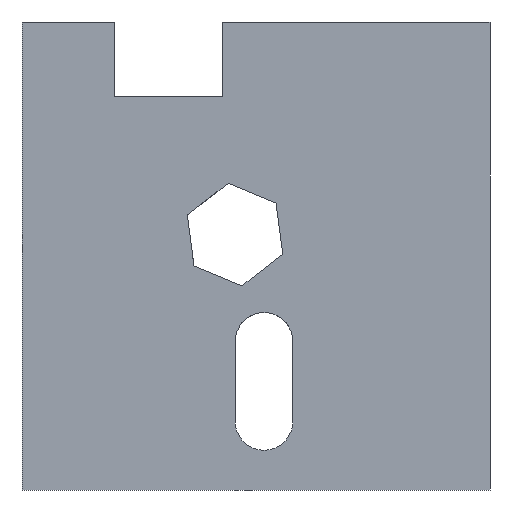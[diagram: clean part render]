
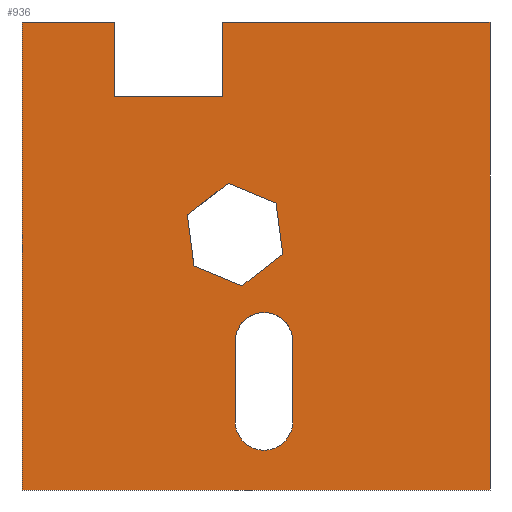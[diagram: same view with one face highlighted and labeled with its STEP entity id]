
A CAD part, front view. The second image highlights one B-rep face of the part: STEP entity #936.
In plain terms, the highlighted planar face has unit normal (0, -1, 0).
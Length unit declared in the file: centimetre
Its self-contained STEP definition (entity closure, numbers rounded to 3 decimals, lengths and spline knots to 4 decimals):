
#5 = VECTOR ( 'NONE', #1005, 100. ) ;
#16 = DIRECTION ( 'NONE',  ( 0.793, 0., 0.61 ) ) ;
#25 = FACE_OUTER_BOUND ( 'NONE', #751, .T. ) ;
#46 = VERTEX_POINT ( 'NONE', #938 ) ;
#49 = CIRCLE ( 'NONE', #1141, 61.485 ) ;
#51 = AXIS2_PLACEMENT_3D ( 'NONE', #134, #815, #830 ) ;
#72 = CARTESIAN_POINT ( 'NONE',  ( 455.6065, 0., 317.7559 ) ) ;
#73 = CARTESIAN_POINT ( 'NONE',  ( 455.6065, 0., 146.3168 ) ) ;
#91 = LINE ( 'NONE', #781, #5 ) ;
#108 = ORIENTED_EDGE ( 'NONE', *, *, #205, .F. ) ;
#115 = VERTEX_POINT ( 'NONE', #988 ) ;
#125 = ORIENTED_EDGE ( 'NONE', *, *, #1224, .T. ) ;
#127 = CARTESIAN_POINT ( 'NONE',  ( 353.0919, 0., 588.0164 ) ) ;
#130 = VECTOR ( 'NONE', #1232, 100. ) ;
#131 = VERTEX_POINT ( 'NONE', #677 ) ;
#134 = CARTESIAN_POINT ( 'NONE',  ( 517.0914, 0., 317.7559 ) ) ;
#135 = CARTESIAN_POINT ( 'NONE',  ( 429.1413, 0., 839.8143 ) ) ;
#148 = CARTESIAN_POINT ( 'NONE',  ( 0., 0., 1000. ) ) ;
#157 = LINE ( 'NONE', #148, #346 ) ;
#169 = CARTESIAN_POINT ( 'NONE',  ( 542.8206, 0., 613.2381 ) ) ;
#179 = CARTESIAN_POINT ( 'NONE',  ( 0., 0., 0. ) ) ;
#181 = CIRCLE ( 'NONE', #51, 61.485 ) ;
#182 = VERTEX_POINT ( 'NONE', #394 ) ;
#186 = DIRECTION ( 'NONE',  ( -0.924, 0., 0.382 ) ) ;
#188 = VERTEX_POINT ( 'NONE', #951 ) ;
#191 = LINE ( 'NONE', #285, #955 ) ;
#198 = ORIENTED_EDGE ( 'NONE', *, *, #864, .T. ) ;
#205 = EDGE_CURVE ( 'NONE', #958, #1105, #191, .T. ) ;
#207 = VECTOR ( 'NONE', #16, 100. ) ;
#221 = ORIENTED_EDGE ( 'NONE', *, *, #447, .T. ) ;
#227 = VERTEX_POINT ( 'NONE', #763 ) ;
#238 = LINE ( 'NONE', #900, #207 ) ;
#244 = AXIS2_PLACEMENT_3D ( 'NONE', #713, #1112, #572 ) ;
#246 = VECTOR ( 'NONE', #1081, 100. ) ;
#248 = LINE ( 'NONE', #428, #347 ) ;
#249 = DIRECTION ( 'NONE',  ( 1., 0., 0. ) ) ;
#252 = EDGE_LOOP ( 'NONE', ( #724, #672, #1009, #125, #1113 ) ) ;
#254 = CARTESIAN_POINT ( 'NONE',  ( 197.1459, 0., 1000. ) ) ;
#260 = EDGE_CURVE ( 'NONE', #131, #424, #379, .T. ) ;
#273 = DIRECTION ( 'NONE',  ( 0., 0., -1. ) ) ;
#274 = EDGE_CURVE ( 'NONE', #641, #131, #367, .T. ) ;
#278 = EDGE_CURVE ( 'NONE', #803, #182, #91, .T. ) ;
#279 = CARTESIAN_POINT ( 'NONE',  ( 578.5764, 0., 317.7559 ) ) ;
#285 = CARTESIAN_POINT ( 'NONE',  ( 0., 0., 1000. ) ) ;
#336 = CARTESIAN_POINT ( 'NONE',  ( 367.6537, 0., 478.4765 ) ) ;
#346 = VECTOR ( 'NONE', #1148, 100. ) ;
#347 = VECTOR ( 'NONE', #1024, 100. ) ;
#360 = ORIENTED_EDGE ( 'NONE', *, *, #841, .F. ) ;
#367 = LINE ( 'NONE', #279, #566 ) ;
#370 = LINE ( 'NONE', #73, #957 ) ;
#376 = DIRECTION ( 'NONE',  ( 0., 0., 1. ) ) ;
#377 = CARTESIAN_POINT ( 'NONE',  ( 557.3824, 0., 503.6982 ) ) ;
#379 = CIRCLE ( 'NONE', #1139, 61.485 ) ;
#394 = CARTESIAN_POINT ( 'NONE',  ( 557.3824, 0., 503.6982 ) ) ;
#409 = CARTESIAN_POINT ( 'NONE',  ( 1000., 0., 1000. ) ) ;
#424 = VERTEX_POINT ( 'NONE', #1002 ) ;
#427 = VERTEX_POINT ( 'NONE', #907 ) ;
#428 = CARTESIAN_POINT ( 'NONE',  ( 197.1459, 0., 839.8143 ) ) ;
#430 = ORIENTED_EDGE ( 'NONE', *, *, #278, .T. ) ;
#436 = VERTEX_POINT ( 'NONE', #127 ) ;
#438 = DIRECTION ( 'NONE',  ( 1., 0., 0. ) ) ;
#447 = EDGE_CURVE ( 'NONE', #115, #436, #818, .T. ) ;
#449 = VERTEX_POINT ( 'NONE', #135 ) ;
#452 = DIRECTION ( 'NONE',  ( 0., 0., 1. ) ) ;
#457 = LINE ( 'NONE', #944, #1078 ) ;
#469 = CARTESIAN_POINT ( 'NONE',  ( 517.0914, 0., 146.3168 ) ) ;
#470 = LINE ( 'NONE', #1057, #613 ) ;
#506 = VECTOR ( 'NONE', #186, 100. ) ;
#521 = ORIENTED_EDGE ( 'NONE', *, *, #743, .T. ) ;
#541 = EDGE_CURVE ( 'NONE', #865, #427, #858, .T. ) ;
#556 = CARTESIAN_POINT ( 'NONE',  ( 197.1459, 0., 839.8143 ) ) ;
#566 = VECTOR ( 'NONE', #1258, 100. ) ;
#572 = DIRECTION ( 'NONE',  ( 0., 0., 1. ) ) ;
#575 = LINE ( 'NONE', #670, #246 ) ;
#597 = DIRECTION ( 'NONE',  ( 1., 0., 0. ) ) ;
#613 = VECTOR ( 'NONE', #597, 100. ) ;
#624 = CARTESIAN_POINT ( 'NONE',  ( 440.6754, 0., 655.3972 ) ) ;
#640 = VERTEX_POINT ( 'NONE', #72 ) ;
#641 = VERTEX_POINT ( 'NONE', #1151 ) ;
#655 = ORIENTED_EDGE ( 'NONE', *, *, #976, .T. ) ;
#670 = CARTESIAN_POINT ( 'NONE',  ( 429.1413, 0., 839.8143 ) ) ;
#672 = ORIENTED_EDGE ( 'NONE', *, *, #260, .T. ) ;
#677 = CARTESIAN_POINT ( 'NONE',  ( 578.5764, 0., 146.3168 ) ) ;
#682 = LINE ( 'NONE', #377, #1035 ) ;
#691 = CARTESIAN_POINT ( 'NONE',  ( 0., 0., 1000. ) ) ;
#713 = CARTESIAN_POINT ( 'NONE',  ( 0., 0., 1000. ) ) ;
#723 = ORIENTED_EDGE ( 'NONE', *, *, #541, .T. ) ;
#724 = ORIENTED_EDGE ( 'NONE', *, *, #274, .T. ) ;
#736 = EDGE_LOOP ( 'NONE', ( #1209, #430, #198, #1021, #221, #1210 ) ) ;
#743 = EDGE_CURVE ( 'NONE', #449, #227, #1226, .T. ) ;
#751 = EDGE_LOOP ( 'NONE', ( #521, #1100, #360, #655, #723, #883, #108, #1211 ) ) ;
#763 = CARTESIAN_POINT ( 'NONE',  ( 197.1459, 0., 839.8143 ) ) ;
#769 = DIRECTION ( 'NONE',  ( -0.793, 0., -0.61 ) ) ;
#781 = CARTESIAN_POINT ( 'NONE',  ( 542.8206, 0., 613.2381 ) ) ;
#803 = VERTEX_POINT ( 'NONE', #169 ) ;
#815 = DIRECTION ( 'NONE',  ( 0., 1., 0. ) ) ;
#818 = LINE ( 'NONE', #336, #835 ) ;
#819 = PLANE ( 'NONE',  #244 ) ;
#825 = DIRECTION ( 'NONE',  ( 0.924, 0., -0.382 ) ) ;
#827 = VERTEX_POINT ( 'NONE', #254 ) ;
#830 = DIRECTION ( 'NONE',  ( 0., 0., 1. ) ) ;
#835 = VECTOR ( 'NONE', #1019, 100. ) ;
#841 = EDGE_CURVE ( 'NONE', #1077, #827, #470, .T. ) ;
#856 = VECTOR ( 'NONE', #825, 100. ) ;
#858 = LINE ( 'NONE', #179, #1263 ) ;
#864 = EDGE_CURVE ( 'NONE', #182, #46, #682, .T. ) ;
#865 = VERTEX_POINT ( 'NONE', #970 ) ;
#876 = VERTEX_POINT ( 'NONE', #1158 ) ;
#880 = LINE ( 'NONE', #1277, #506 ) ;
#883 = ORIENTED_EDGE ( 'NONE', *, *, #1008, .F. ) ;
#900 = CARTESIAN_POINT ( 'NONE',  ( 353.0919, 0., 588.0164 ) ) ;
#907 = CARTESIAN_POINT ( 'NONE',  ( 1000., 0., 0. ) ) ;
#908 = FACE_BOUND ( 'NONE', #736, .T. ) ;
#936 = ADVANCED_FACE ( 'NONE', ( #1104, #908, #25 ), #819, .F. ) ;
#938 = CARTESIAN_POINT ( 'NONE',  ( 469.7989, 0., 436.3174 ) ) ;
#939 = EDGE_CURVE ( 'NONE', #188, #641, #49, .T. ) ;
#944 = CARTESIAN_POINT ( 'NONE',  ( 1000., 0., 1000. ) ) ;
#951 = CARTESIAN_POINT ( 'NONE',  ( 517.0914, 0., 379.2409 ) ) ;
#955 = VECTOR ( 'NONE', #249, 100. ) ;
#957 = VECTOR ( 'NONE', #1029, 100. ) ;
#958 = VERTEX_POINT ( 'NONE', #1239 ) ;
#963 = EDGE_CURVE ( 'NONE', #424, #640, #370, .T. ) ;
#970 = CARTESIAN_POINT ( 'NONE',  ( 0., 0., 0. ) ) ;
#976 = EDGE_CURVE ( 'NONE', #1077, #865, #157, .T. ) ;
#988 = CARTESIAN_POINT ( 'NONE',  ( 367.6537, 0., 478.4765 ) ) ;
#1002 = CARTESIAN_POINT ( 'NONE',  ( 455.6065, 0., 146.3168 ) ) ;
#1005 = DIRECTION ( 'NONE',  ( 0.132, 0., -0.991 ) ) ;
#1008 = EDGE_CURVE ( 'NONE', #1105, #427, #457, .T. ) ;
#1009 = ORIENTED_EDGE ( 'NONE', *, *, #963, .T. ) ;
#1019 = DIRECTION ( 'NONE',  ( -0.132, 0., 0.991 ) ) ;
#1021 = ORIENTED_EDGE ( 'NONE', *, *, #1068, .T. ) ;
#1024 = DIRECTION ( 'NONE',  ( 0., 0., 1. ) ) ;
#1029 = DIRECTION ( 'NONE',  ( 0., 0., 1. ) ) ;
#1035 = VECTOR ( 'NONE', #769, 100. ) ;
#1042 = DIRECTION ( 'NONE',  ( 0., 1., 0. ) ) ;
#1046 = DIRECTION ( 'NONE',  ( 0., 1., 0. ) ) ;
#1057 = CARTESIAN_POINT ( 'NONE',  ( 0., 0., 1000. ) ) ;
#1068 = EDGE_CURVE ( 'NONE', #46, #115, #880, .T. ) ;
#1077 = VERTEX_POINT ( 'NONE', #691 ) ;
#1078 = VECTOR ( 'NONE', #273, 100. ) ;
#1081 = DIRECTION ( 'NONE',  ( 0., 0., -1. ) ) ;
#1100 = ORIENTED_EDGE ( 'NONE', *, *, #1255, .T. ) ;
#1104 = FACE_BOUND ( 'NONE', #252, .T. ) ;
#1105 = VERTEX_POINT ( 'NONE', #409 ) ;
#1112 = DIRECTION ( 'NONE',  ( 0., 1., 0. ) ) ;
#1113 = ORIENTED_EDGE ( 'NONE', *, *, #939, .T. ) ;
#1115 = LINE ( 'NONE', #624, #856 ) ;
#1127 = EDGE_CURVE ( 'NONE', #958, #449, #575, .T. ) ;
#1139 = AXIS2_PLACEMENT_3D ( 'NONE', #469, #1042, #376 ) ;
#1141 = AXIS2_PLACEMENT_3D ( 'NONE', #1234, #1046, #452 ) ;
#1148 = DIRECTION ( 'NONE',  ( 0., 0., -1. ) ) ;
#1151 = CARTESIAN_POINT ( 'NONE',  ( 578.5764, 0., 317.7559 ) ) ;
#1158 = CARTESIAN_POINT ( 'NONE',  ( 440.6754, 0., 655.3972 ) ) ;
#1185 = EDGE_CURVE ( 'NONE', #876, #803, #1115, .T. ) ;
#1206 = EDGE_CURVE ( 'NONE', #436, #876, #238, .T. ) ;
#1209 = ORIENTED_EDGE ( 'NONE', *, *, #1185, .T. ) ;
#1210 = ORIENTED_EDGE ( 'NONE', *, *, #1206, .T. ) ;
#1211 = ORIENTED_EDGE ( 'NONE', *, *, #1127, .T. ) ;
#1224 = EDGE_CURVE ( 'NONE', #640, #188, #181, .T. ) ;
#1226 = LINE ( 'NONE', #556, #130 ) ;
#1232 = DIRECTION ( 'NONE',  ( -1., 0., 0. ) ) ;
#1234 = CARTESIAN_POINT ( 'NONE',  ( 517.0914, 0., 317.7559 ) ) ;
#1239 = CARTESIAN_POINT ( 'NONE',  ( 429.1413, 0., 1000. ) ) ;
#1255 = EDGE_CURVE ( 'NONE', #227, #827, #248, .T. ) ;
#1258 = DIRECTION ( 'NONE',  ( 0., 0., -1. ) ) ;
#1263 = VECTOR ( 'NONE', #438, 100. ) ;
#1277 = CARTESIAN_POINT ( 'NONE',  ( 469.7989, 0., 436.3174 ) ) ;
